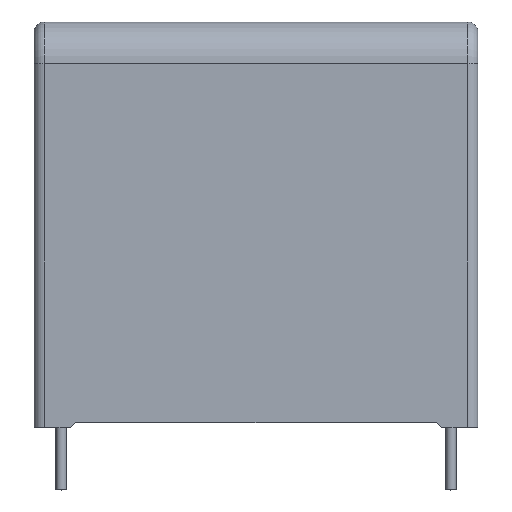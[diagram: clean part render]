
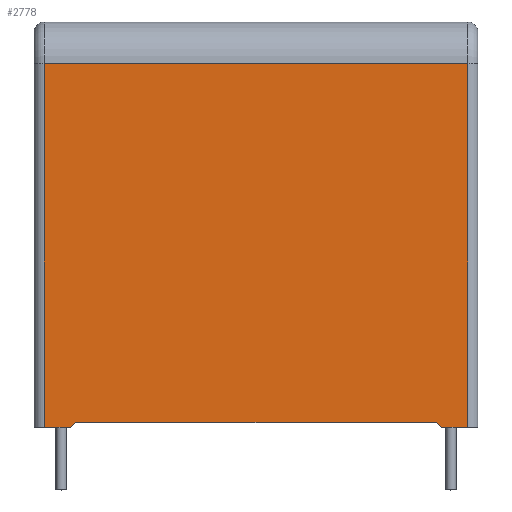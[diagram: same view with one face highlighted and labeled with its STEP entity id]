
A CAD part, top view. The second image highlights one B-rep face of the part: STEP entity #2778.
In plain terms, the highlighted planar face has unit normal (0, 0, 1).
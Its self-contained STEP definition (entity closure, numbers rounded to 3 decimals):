
#34 = DIRECTION ( 'NONE',  ( -1., 0., 0. ) ) ;
#94 = CARTESIAN_POINT ( 'NONE',  ( 17.35, 0.5, 11.1 ) ) ;
#192 = VECTOR ( 'NONE', #1827, 1000. ) ;
#196 = ORIENTED_EDGE ( 'NONE', *, *, #1349, .F. ) ;
#240 = EDGE_CURVE ( 'NONE', #3966, #1601, #1990, .T. ) ;
#275 = LINE ( 'NONE', #1380, #1919 ) ;
#301 = ORIENTED_EDGE ( 'NONE', *, *, #458, .T. ) ;
#402 = ORIENTED_EDGE ( 'NONE', *, *, #3841, .F. ) ;
#458 = EDGE_CURVE ( 'NONE', #1507, #3966, #2245, .T. ) ;
#534 = CARTESIAN_POINT ( 'NONE',  ( -20.35, 39., 11.1 ) ) ;
#687 = EDGE_CURVE ( 'NONE', #2399, #1507, #3037, .T. ) ;
#708 = CARTESIAN_POINT ( 'NONE',  ( 20.35, 35., 11.1 ) ) ;
#834 = VECTOR ( 'NONE', #2068, 1000. ) ;
#880 = VECTOR ( 'NONE', #1567, 1000. ) ;
#980 = VERTEX_POINT ( 'NONE', #1032 ) ;
#1032 = CARTESIAN_POINT ( 'NONE',  ( -17.35, 0.5, 11.1 ) ) ;
#1040 = EDGE_CURVE ( 'NONE', #1177, #2399, #275, .T. ) ;
#1049 = DIRECTION ( 'NONE',  ( 1., 0., 0. ) ) ;
#1051 = DIRECTION ( 'NONE',  ( -0.707, -0.707, 0. ) ) ;
#1070 = ORIENTED_EDGE ( 'NONE', *, *, #1119, .F. ) ;
#1116 = CARTESIAN_POINT ( 'NONE',  ( -20.35, 35., 11.1 ) ) ;
#1119 = EDGE_CURVE ( 'NONE', #1177, #3665, #3338, .T. ) ;
#1177 = VERTEX_POINT ( 'NONE', #1766 ) ;
#1206 = CARTESIAN_POINT ( 'NONE',  ( -17.35, 0.5, 11.1 ) ) ;
#1227 = VECTOR ( 'NONE', #2502, 1000. ) ;
#1330 = DIRECTION ( 'NONE',  ( -1., 0., 0. ) ) ;
#1349 = EDGE_CURVE ( 'NONE', #3665, #980, #1759, .T. ) ;
#1377 = VECTOR ( 'NONE', #1330, 1000. ) ;
#1380 = CARTESIAN_POINT ( 'NONE',  ( -21.35, 0., 11.1 ) ) ;
#1484 = VECTOR ( 'NONE', #1051, 1000. ) ;
#1496 = FACE_OUTER_BOUND ( 'NONE', #3111, .T. ) ;
#1507 = VERTEX_POINT ( 'NONE', #708 ) ;
#1567 = DIRECTION ( 'NONE',  ( -1., 0., 0. ) ) ;
#1588 = LINE ( 'NONE', #2026, #1484 ) ;
#1601 = VERTEX_POINT ( 'NONE', #1813 ) ;
#1676 = CARTESIAN_POINT ( 'NONE',  ( -21.35, 39., 11.1 ) ) ;
#1693 = CARTESIAN_POINT ( 'NONE',  ( 20.35, 0., 11.1 ) ) ;
#1759 = LINE ( 'NONE', #1206, #880 ) ;
#1766 = CARTESIAN_POINT ( 'NONE',  ( 17.85, 0., 11.1 ) ) ;
#1813 = CARTESIAN_POINT ( 'NONE',  ( -20.35, 0., 11.1 ) ) ;
#1827 = DIRECTION ( 'NONE',  ( 1., 0., 0. ) ) ;
#1919 = VECTOR ( 'NONE', #1049, 1000. ) ;
#1944 = ORIENTED_EDGE ( 'NONE', *, *, #1040, .T. ) ;
#1990 = LINE ( 'NONE', #534, #1227 ) ;
#2006 = DIRECTION ( 'NONE',  ( 0., 0., -1. ) ) ;
#2026 = CARTESIAN_POINT ( 'NONE',  ( -17.85, 0., 11.1 ) ) ;
#2068 = DIRECTION ( 'NONE',  ( -0.707, 0.707, 0. ) ) ;
#2176 = VECTOR ( 'NONE', #2467, 1000. ) ;
#2245 = LINE ( 'NONE', #2967, #1377 ) ;
#2256 = CARTESIAN_POINT ( 'NONE',  ( 17.35, 0.5, 11.1 ) ) ;
#2373 = VERTEX_POINT ( 'NONE', #2919 ) ;
#2399 = VERTEX_POINT ( 'NONE', #1693 ) ;
#2467 = DIRECTION ( 'NONE',  ( 0., 1., 0. ) ) ;
#2502 = DIRECTION ( 'NONE',  ( 0., -1., 0. ) ) ;
#2778 = ADVANCED_FACE ( 'NONE', ( #1496 ), #3637, .F. ) ;
#2798 = CARTESIAN_POINT ( 'NONE',  ( -21.35, 0., 11.1 ) ) ;
#2802 = LINE ( 'NONE', #2798, #192 ) ;
#2912 = ORIENTED_EDGE ( 'NONE', *, *, #240, .T. ) ;
#2919 = CARTESIAN_POINT ( 'NONE',  ( -17.85, 0., 11.1 ) ) ;
#2967 = CARTESIAN_POINT ( 'NONE',  ( -21.35, 35., 11.1 ) ) ;
#3037 = LINE ( 'NONE', #3349, #2176 ) ;
#3111 = EDGE_LOOP ( 'NONE', ( #196, #1070, #1944, #3689, #301, #2912, #3789, #402 ) ) ;
#3338 = LINE ( 'NONE', #94, #834 ) ;
#3349 = CARTESIAN_POINT ( 'NONE',  ( 20.35, 39., 11.1 ) ) ;
#3536 = AXIS2_PLACEMENT_3D ( 'NONE', #1676, #2006, #34 ) ;
#3637 = PLANE ( 'NONE',  #3536 ) ;
#3665 = VERTEX_POINT ( 'NONE', #2256 ) ;
#3689 = ORIENTED_EDGE ( 'NONE', *, *, #687, .T. ) ;
#3789 = ORIENTED_EDGE ( 'NONE', *, *, #4058, .T. ) ;
#3841 = EDGE_CURVE ( 'NONE', #980, #2373, #1588, .T. ) ;
#3966 = VERTEX_POINT ( 'NONE', #1116 ) ;
#4058 = EDGE_CURVE ( 'NONE', #1601, #2373, #2802, .T. ) ;
